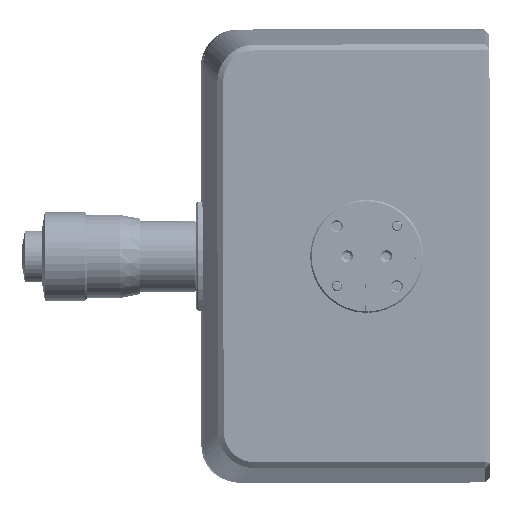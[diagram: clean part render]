
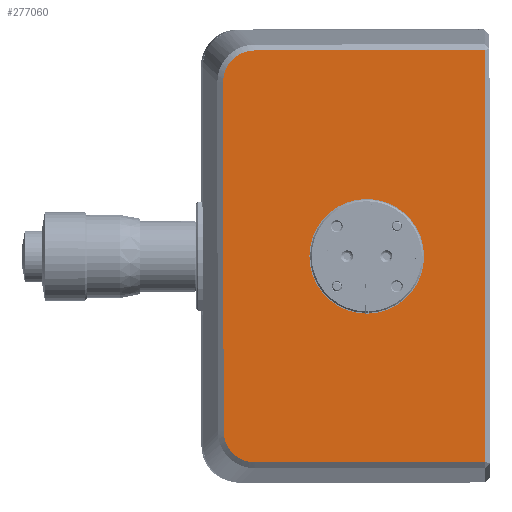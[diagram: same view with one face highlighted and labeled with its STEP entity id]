
A CAD part, left-side view. The second image highlights one B-rep face of the part: STEP entity #277060.
In plain terms, the highlighted planar face has unit normal (-1, -0.002, -0.001).
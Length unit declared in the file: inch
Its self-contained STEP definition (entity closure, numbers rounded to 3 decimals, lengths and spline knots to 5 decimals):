
#365 = ORIENTED_EDGE ( 'NONE', *, *, #139036, .T. ) ;
#3580 = CARTESIAN_POINT ( 'NONE',  ( -1.59511, -6.70421, -0.03361 ) ) ;
#4385 = VERTEX_POINT ( 'NONE', #76585 ) ;
#6088 = CARTESIAN_POINT ( 'NONE',  ( -1.5937, -6.7461, -2.64177 ) ) ;
#9642 = CARTESIAN_POINT ( 'NONE',  ( -1.59505, -6.76588, 0.02046 ) ) ;
#34905 = CIRCLE ( 'NONE', #145885, 0.38 ) ;
#39308 = DIRECTION ( 'NONE',  ( 0.001, -0.001, -1. ) ) ;
#42769 = VERTEX_POINT ( 'NONE', #378694 ) ;
#42858 = CARTESIAN_POINT ( 'NONE',  ( -1.59391, -6.66566, -2.47467 ) ) ;
#44872 = CARTESIAN_POINT ( 'NONE',  ( -1.59378, -6.70755, -2.60331 ) ) ;
#45714 = EDGE_CURVE ( 'NONE', #334311, #42769, #395996, .T. ) ;
#69139 = CARTESIAN_POINT ( 'NONE',  ( -1.5918, -8.39923, -1.31627 ) ) ;
#69436 = CARTESIAN_POINT ( 'NONE',  ( -1.59381, -6.69203, -2.5801 ) ) ;
#69942 = LINE ( 'NONE', #319218, #122954 ) ;
#76585 = CARTESIAN_POINT ( 'NONE',  ( -1.59511, -6.66266, -0.16236 ) ) ;
#78277 = EDGE_CURVE ( 'NONE', #369958, #195378, #342598, .T. ) ;
#94540 = CARTESIAN_POINT ( 'NONE',  ( -1.59347, -6.87485, -2.68332 ) ) ;
#99737 = CARTESIAN_POINT ( 'NONE',  ( -1.59498, -6.81633, 0.04132 ) ) ;
#100236 = CARTESIAN_POINT ( 'NONE',  ( -1.59251, -8.39746, 0.04881 ) ) ;
#104186 = ORIENTED_EDGE ( 'NONE', *, *, #289943, .T. ) ;
#107781 = ORIENTED_EDGE ( 'NONE', *, *, #45714, .T. ) ;
#110389 = FACE_OUTER_BOUND ( 'NONE', #142433, .T. ) ;
#122954 = VECTOR ( 'NONE', #39308, 39.37008 ) ;
#124324 = ORIENTED_EDGE ( 'NONE', *, *, #269728, .F. ) ;
#127520 = VERTEX_POINT ( 'NONE', #154322 ) ;
#130400 = CARTESIAN_POINT ( 'NONE',  ( -1.59513, -6.68876, -0.05687 ) ) ;
#132670 = DIRECTION ( 'NONE',  ( -1., -0.002, -0.001 ) ) ;
#132902 = CARTESIAN_POINT ( 'NONE',  ( -1.59365, -6.76936, -2.65723 ) ) ;
#134626 = DIRECTION ( 'NONE',  ( -0.001, 0.001, 1. ) ) ;
#139036 = EDGE_CURVE ( 'NONE', #195378, #234250, #256631, .T. ) ;
#142433 = EDGE_LOOP ( 'NONE', ( #304242, #365, #165163, #107781, #378846, #104186 ) ) ;
#145885 = AXIS2_PLACEMENT_3D ( 'NONE', #384008, #132670, #230740 ) ;
#154322 = CARTESIAN_POINT ( 'NONE',  ( -1.59283, -7.61473, -1.69728 ) ) ;
#158577 = DIRECTION ( 'NONE',  ( 0.002, -1., 0.001 ) ) ;
#159117 = CARTESIAN_POINT ( 'NONE',  ( -1.59507, -6.74267, 0.00494 ) ) ;
#163174 = CARTESIAN_POINT ( 'NONE',  ( -1.59489, -6.87131, 0.04683 ) ) ;
#165163 = ORIENTED_EDGE ( 'NONE', *, *, #341809, .T. ) ;
#180330 = ORIENTED_EDGE ( 'NONE', *, *, #323911, .F. ) ;
#193826 = VECTOR ( 'NONE', #158577, 39.37008 ) ;
#194243 = CARTESIAN_POINT ( 'NONE',  ( -1.59356, -6.81985, -2.67797 ) ) ;
#195378 = VERTEX_POINT ( 'NONE', #94540 ) ;
#205324 = DIRECTION ( 'NONE',  ( -1., -0.002, -0.001 ) ) ;
#213794 = AXIS2_PLACEMENT_3D ( 'NONE', #361692, #265854, #332978 ) ;
#221026 = AXIS2_PLACEMENT_3D ( 'NONE', #362577, #205324, #335882 ) ;
#226909 = CARTESIAN_POINT ( 'NONE',  ( -1.59347, -6.87485, -2.68332 ) ) ;
#228944 = CARTESIAN_POINT ( 'NONE',  ( -1.59387, -6.67116, -2.52965 ) ) ;
#230740 = DIRECTION ( 'NONE',  ( -0.001, 0.001, 1. ) ) ;
#231787 = VECTOR ( 'NONE', #392034, 39.37008 ) ;
#234250 = VERTEX_POINT ( 'NONE', #270159 ) ;
#239151 = PLANE ( 'NONE',  #213794 ) ;
#250576 = CARTESIAN_POINT ( 'NONE',  ( -1.59253, -7.48101, -2.68254 ) ) ;
#253132 = CARTESIAN_POINT ( 'NONE',  ( -1.59513, -6.66262, -0.13482 ) ) ;
#253329 = LINE ( 'NONE', #69139, #335687 ) ;
#256631 = LINE ( 'NONE', #250576, #193826 ) ;
#261211 = CARTESIAN_POINT ( 'NONE',  ( -1.59513, -6.66802, -0.10736 ) ) ;
#263837 = FACE_BOUND ( 'NONE', #351105, .T. ) ;
#265420 = CARTESIAN_POINT ( 'NONE',  ( -1.59395, -7.47747, 0.04762 ) ) ;
#265854 = DIRECTION ( 'NONE',  ( 1., 0.002, 0.001 ) ) ;
#267230 = EDGE_CURVE ( 'NONE', #42769, #4385, #288796, .T. ) ;
#269728 = EDGE_CURVE ( 'NONE', #396248, #127520, #286310, .T. ) ;
#270159 = CARTESIAN_POINT ( 'NONE',  ( -1.59109, -8.401, -2.68134 ) ) ;
#277060 = ADVANCED_FACE ( 'NONE', ( #263837, #110389 ), #239151, .F. ) ;
#283736 = CARTESIAN_POINT ( 'NONE',  ( -1.59494, -6.84382, 0.0468 ) ) ;
#284168 = CARTESIAN_POINT ( 'NONE',  ( -1.59352, -6.84731, -2.68336 ) ) ;
#286310 = CIRCLE ( 'NONE', #221026, 0.38 ) ;
#288796 = B_SPLINE_CURVE_WITH_KNOTS ( 'NONE', 3,
 ( #163174, #283736, #99737, #9642, #159117, #3580, #130400, #261211, #253132, #381714 ),
 .UNSPECIFIED., .F., .F.,
 ( 4, 2, 2, 2, 4 ),
 ( 0., 0.25, 0.5, 0.75, 1. ),
 .UNSPECIFIED. ) ;
#288979 = CARTESIAN_POINT ( 'NONE',  ( -1.59322, -7.61374, -0.93729 ) ) ;
#289943 = EDGE_CURVE ( 'NONE', #4385, #369958, #69942, .T. ) ;
#304242 = ORIENTED_EDGE ( 'NONE', *, *, #78277, .T. ) ;
#319218 = CARTESIAN_POINT ( 'NONE',  ( -1.59451, -6.66416, -1.31852 ) ) ;
#323911 = EDGE_CURVE ( 'NONE', #127520, #396248, #34905, .T. ) ;
#324041 = CARTESIAN_POINT ( 'NONE',  ( -1.59391, -6.66566, -2.47467 ) ) ;
#332978 = DIRECTION ( 'NONE',  ( 0.001, -0.001, -1. ) ) ;
#334311 = VERTEX_POINT ( 'NONE', #100236 ) ;
#335687 = VECTOR ( 'NONE', #134626, 39.37008 ) ;
#335882 = DIRECTION ( 'NONE',  ( -0.001, 0.001, 1. ) ) ;
#341809 = EDGE_CURVE ( 'NONE', #234250, #334311, #253329, .T. ) ;
#342598 = B_SPLINE_CURVE_WITH_KNOTS ( 'NONE', 3,
 ( #42858, #386262, #228944, #69436, #44872, #6088, #132902, #194243, #284168, #226909 ),
 .UNSPECIFIED., .F., .F.,
 ( 4, 2, 2, 2, 4 ),
 ( 0., 0.25, 0.5, 0.75, 1. ),
 .UNSPECIFIED. ) ;
#351105 = EDGE_LOOP ( 'NONE', ( #124324, #180330 ) ) ;
#361692 = CARTESIAN_POINT ( 'NONE',  ( -1.59324, -7.47924, -1.31746 ) ) ;
#362577 = CARTESIAN_POINT ( 'NONE',  ( -1.59303, -7.61424, -1.31728 ) ) ;
#369958 = VERTEX_POINT ( 'NONE', #324041 ) ;
#378694 = CARTESIAN_POINT ( 'NONE',  ( -1.59489, -6.87131, 0.04683 ) ) ;
#378846 = ORIENTED_EDGE ( 'NONE', *, *, #267230, .T. ) ;
#381714 = CARTESIAN_POINT ( 'NONE',  ( -1.59511, -6.66266, -0.16236 ) ) ;
#384008 = CARTESIAN_POINT ( 'NONE',  ( -1.59303, -7.61424, -1.31728 ) ) ;
#386262 = CARTESIAN_POINT ( 'NONE',  ( -1.59389, -6.66569, -2.50216 ) ) ;
#392034 = DIRECTION ( 'NONE',  ( -0.002, 1., -0.001 ) ) ;
#395996 = LINE ( 'NONE', #265420, #231787 ) ;
#396248 = VERTEX_POINT ( 'NONE', #288979 ) ;
